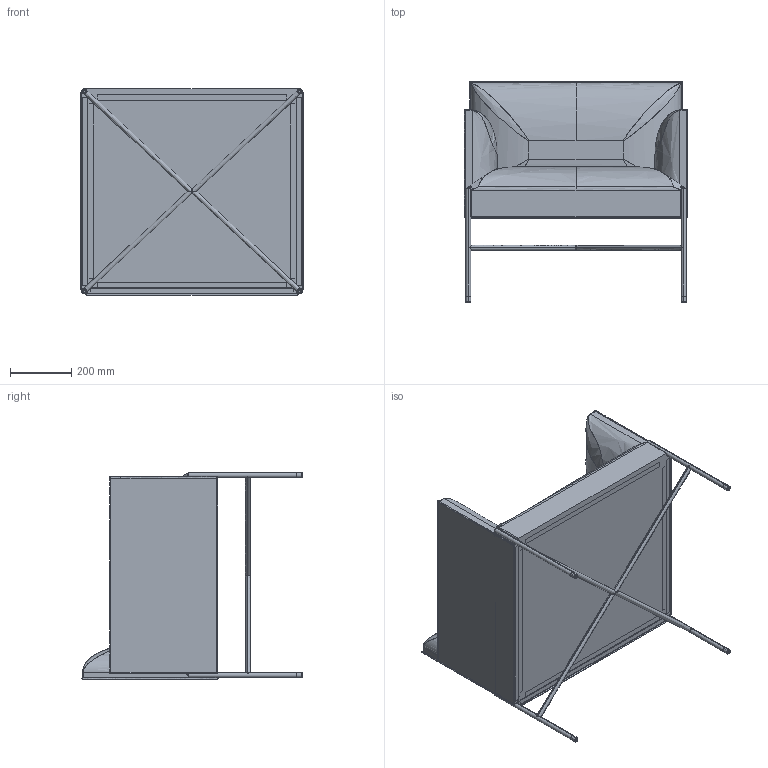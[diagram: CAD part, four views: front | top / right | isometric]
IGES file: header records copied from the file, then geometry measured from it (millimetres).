
Start section: SolidWorks IGES file using analytic representation for surfaces
Global section: file name: W:\design\GORDON GUILLAUMIER\Chill-Out\modelli 3d aggiornati\poltrona P.IGS; native system: SolidWorks 2010; preprocessor: SolidWorks 2010; author: PC20; date: 140714.193125; units: millimetre
Bounding box: 730 x 719.5 x 675.5 mm (x, y, z)
Surface area: 6723802.8 mm2 (no closed solid volume)
Topology: 0 solids, 0 shells, 601 faces, 15179 edges, 17866 vertices
Faces by surface type: bspline 335, revolution 266
